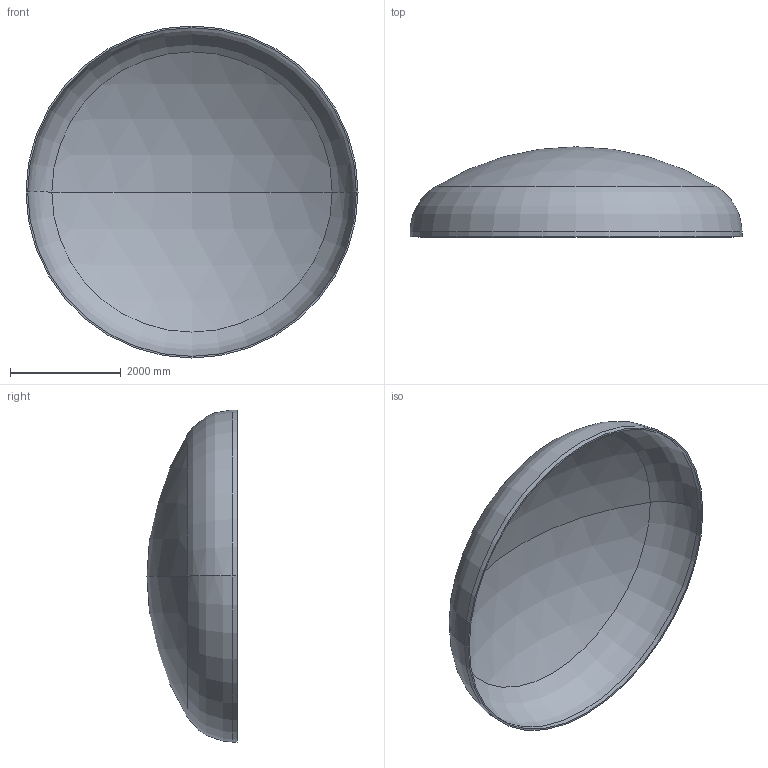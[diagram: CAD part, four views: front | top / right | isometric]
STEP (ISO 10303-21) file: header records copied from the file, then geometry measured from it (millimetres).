
FILE_DESCRIPTION (( 'STEP AP203' ), '1' );
FILE_NAME ('DIN 28013 Korbbogenform_-_Boden DIN 28013 - 6000 x 90 - I - s=30.step', '2016-07-04T10:36:28', ( '' ), ( '' ), 'SwSTEP 2.0', 'SolidWorks 2013', '' );
FILE_SCHEMA (( 'CONFIG_CONTROL_DESIGN' ));
Length unit declared in the file: millimetre
Products named in the file (1): DIN 28013 Korbbogenform_-_Boden DIN 28013 - 6000 x 90 - I - s=30
Bounding box: 6000 x 1628.56 x 6000 mm (x, y, z)
Volume: 1217973097.5 mm3; surface area: 81762718.5 mm2
Topology: 1 solids, 1 shells, 13 faces, 24 edges, 14 vertices
Faces by surface type: torus 4, cylinder 4, sphere 4, plane 1
Entity records: 407 total; most frequent: DIRECTION 72, CARTESIAN_POINT 52, ORIENTED_EDGE 48, AXIS2_PLACEMENT_3D 34, EDGE_CURVE 24, CIRCLE 20, EDGE_LOOP 14, VERTEX_POINT 14
